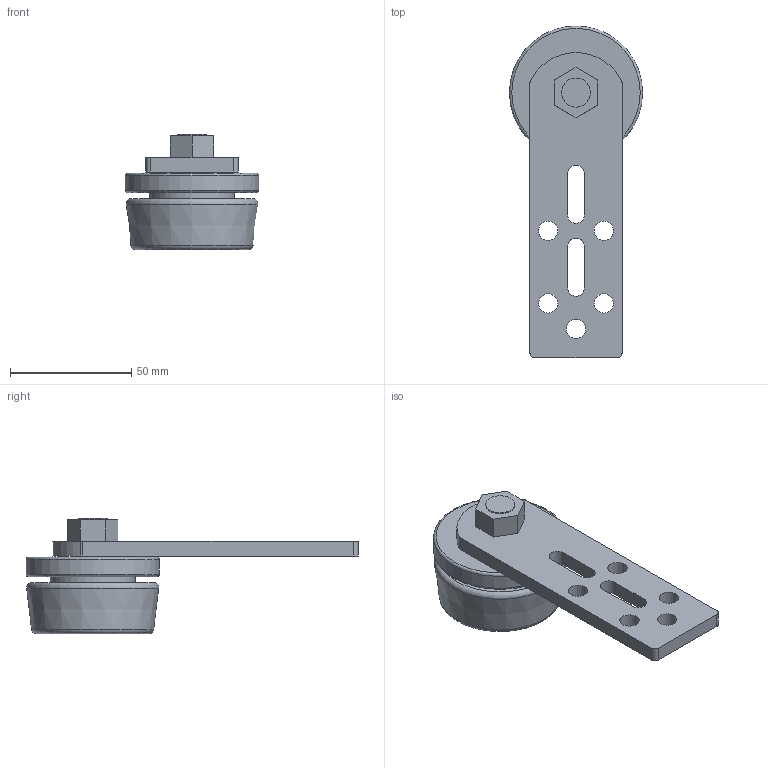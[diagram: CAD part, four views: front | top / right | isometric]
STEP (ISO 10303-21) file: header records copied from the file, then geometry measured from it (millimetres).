
FILE_DESCRIPTION(/* description */ (''),/* implementation_level */ '2;1');
FILE_NAME(/* name */ '\\NAS\db20\ROL-C3\DR_ROL-C3.stp',/* time_stamp */ '2017-10-13T10:59:31+09:00',/* author */ ('user'),/* organization */ (''),/* preprocessor_version */ 'ST-DEVELOPER v15.6',/* originating_system */ 'Autodesk Inventor 2015',/* authorisation */ '');
FILE_SCHEMA (('AUTOMOTIVE_DESIGN { 1 0 10303 214 3 1 1 }'));
Length unit declared in the file: millimetre
Products named in the file (1): DR_ROL-C3
Bounding box: 55 x 137 x 47.5 mm (x, y, z)
Volume: 91761.4 mm3; surface area: 28602.7 mm2
Topology: 4 solids, 4 shells, 57 faces, 131 edges, 86 vertices
Faces by surface type: plane 31, cylinder 21, torus 4, cone 1
Full cylindrical faces by diameter (mm): 8 x5, 12 x4, 26 x1, 35 x1, 55 x1
Entity records: 1597 total; most frequent: DIRECTION 278, CARTESIAN_POINT 258, ORIENTED_EDGE 228, EDGE_CURVE 114, AXIS2_PLACEMENT_3D 106, EDGE_LOOP 98, VERTEX_POINT 86, LINE 66
